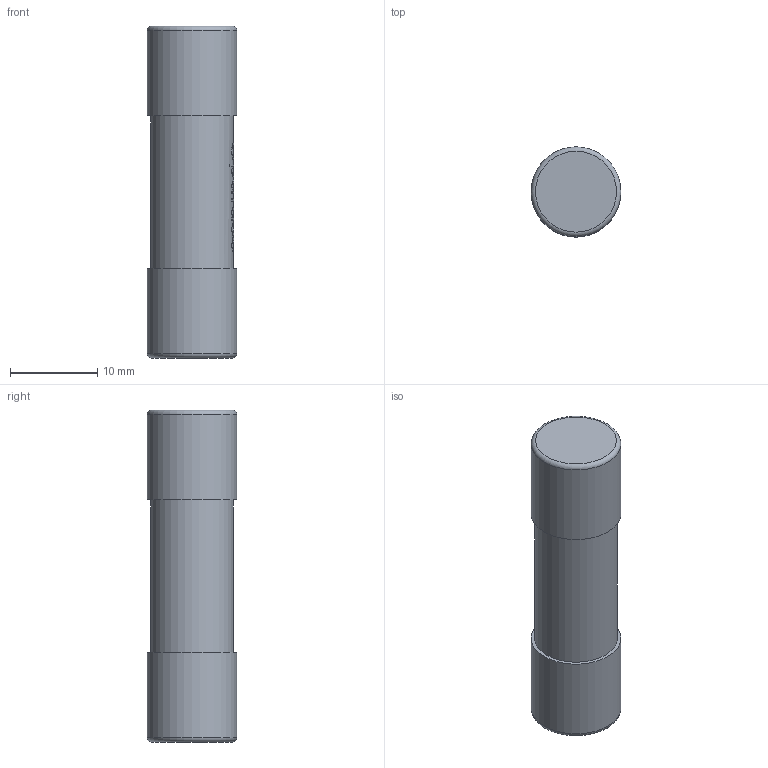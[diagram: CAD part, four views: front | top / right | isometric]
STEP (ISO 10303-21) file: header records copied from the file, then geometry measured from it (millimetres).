
FILE_DESCRIPTION(/* description */ (''),/* implementation_level */ '2;1');
FILE_NAME(/* name */ 'C:\Users\Hani\Desktop\work\FSG\FSG.stp',/* time_stamp */ '2021-08-28T09:12:24-07:00',/* author */ ('Hani'),/* organization */ (''),/* preprocessor_version */ 'ST-DEVELOPER v17',/* originating_system */ 'Autodesk Inventor 2019',/* authorisation */ '');
FILE_SCHEMA (('AUTOMOTIVE_DESIGN { 1 0 10303 214 3 1 1 }'));
Length unit declared in the file: inch
Products named in the file (1): FSG
Bounding box: 10.3 x 10.3 x 38.1 mm (x, y, z)
Volume: 2948.4 mm3; surface area: 1959.3 mm2
Topology: 1 solids, 1 shells, 148 faces, 416 edges, 276 vertices
Faces by surface type: bspline 67, plane 61, cylinder 17, torus 3
Full cylindrical faces by diameter (mm): 9.5 x1, 9.538 x1, 10.3 x2
Entity records: 6299 total; most frequent: CARTESIAN_POINT 2800, ORIENTED_EDGE 832, DIRECTION 525, EDGE_CURVE 416, VERTEX_POINT 276, LINE 189, VECTOR 189, AXIS2_PLACEMENT_3D 168
